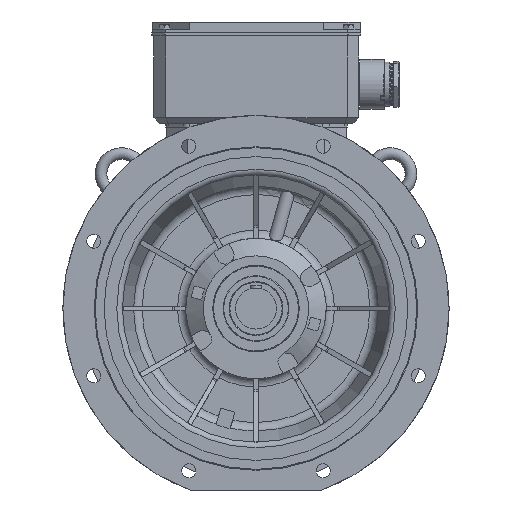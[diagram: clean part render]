
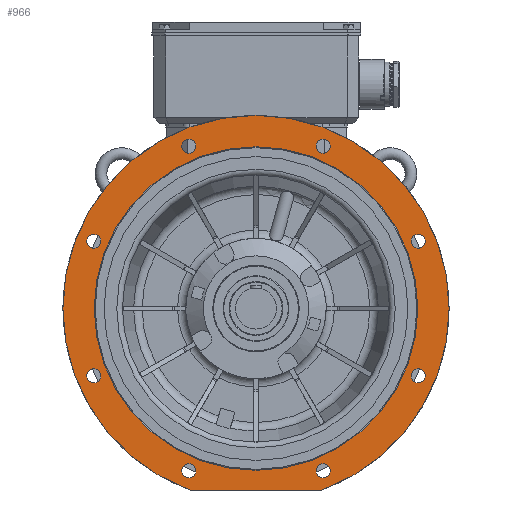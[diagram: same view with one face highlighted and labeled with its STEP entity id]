
A CAD part, front view. The second image highlights one B-rep face of the part: STEP entity #966.
In plain terms, the highlighted planar face has unit normal (0, -1, 0).
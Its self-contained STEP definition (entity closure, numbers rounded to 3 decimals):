
#966 = ADVANCED_FACE( '', ( #3088, #3089, #3090, #3091, #3092, #3093, #3094, #3095, #3096, #3097 ), #3098, .F. );
#3088 = FACE_OUTER_BOUND( '', #7186, .T. );
#3089 = FACE_BOUND( '', #7187, .T. );
#3090 = FACE_BOUND( '', #7188, .T. );
#3091 = FACE_BOUND( '', #7189, .T. );
#3092 = FACE_BOUND( '', #7190, .T. );
#3093 = FACE_BOUND( '', #7191, .T. );
#3094 = FACE_BOUND( '', #7192, .T. );
#3095 = FACE_BOUND( '', #7193, .T. );
#3096 = FACE_BOUND( '', #7194, .T. );
#3097 = FACE_BOUND( '', #7195, .T. );
#3098 = PLANE( '', #7196 );
#7186 = EDGE_LOOP( '', ( #16774, #16775, #16776, #16777 ) );
#7187 = EDGE_LOOP( '', ( #16778 ) );
#7188 = EDGE_LOOP( '', ( #16779 ) );
#7189 = EDGE_LOOP( '', ( #16780 ) );
#7190 = EDGE_LOOP( '', ( #16781 ) );
#7191 = EDGE_LOOP( '', ( #16782 ) );
#7192 = EDGE_LOOP( '', ( #16783 ) );
#7193 = EDGE_LOOP( '', ( #16784 ) );
#7194 = EDGE_LOOP( '', ( #16785 ) );
#7195 = EDGE_LOOP( '', ( #16786 ) );
#7196 = AXIS2_PLACEMENT_3D( '', #16787, #16788, #16789 );
#16774 = ORIENTED_EDGE( '', *, *, #24057, .T. );
#16775 = ORIENTED_EDGE( '', *, *, #22844, .F. );
#16776 = ORIENTED_EDGE( '', *, *, #24058, .T. );
#16777 = ORIENTED_EDGE( '', *, *, #24059, .F. );
#16778 = ORIENTED_EDGE( '', *, *, #24060, .F. );
#16779 = ORIENTED_EDGE( '', *, *, #24061, .F. );
#16780 = ORIENTED_EDGE( '', *, *, #24062, .F. );
#16781 = ORIENTED_EDGE( '', *, *, #24063, .F. );
#16782 = ORIENTED_EDGE( '', *, *, #24064, .F. );
#16783 = ORIENTED_EDGE( '', *, *, #24065, .F. );
#16784 = ORIENTED_EDGE( '', *, *, #24066, .F. );
#16785 = ORIENTED_EDGE( '', *, *, #24067, .F. );
#16786 = ORIENTED_EDGE( '', *, *, #23243, .F. );
#16787 = CARTESIAN_POINT( '', ( 0., -104.997, 276.4 ) );
#16788 = DIRECTION( '', ( 0., 1., 0. ) );
#16789 = DIRECTION( '', ( 1., 0., 0. ) );
#22844 = EDGE_CURVE( '', #27185, #27187, #27188, .T. );
#23243 = EDGE_CURVE( '', #27908, #27908, #27909, .F. );
#24057 = EDGE_CURVE( '', #29259, #27187, #29260, .F. );
#24058 = EDGE_CURVE( '', #27185, #29261, #29262, .F. );
#24059 = EDGE_CURVE( '', #29259, #29261, #29263, .T. );
#24060 = EDGE_CURVE( '', #29264, #29264, #29265, .F. );
#24061 = EDGE_CURVE( '', #29266, #29266, #29267, .F. );
#24062 = EDGE_CURVE( '', #29268, #29268, #29269, .F. );
#24063 = EDGE_CURVE( '', #29270, #29270, #29271, .F. );
#24064 = EDGE_CURVE( '', #29272, #29272, #29273, .F. );
#24065 = EDGE_CURVE( '', #29274, #29274, #29275, .F. );
#24066 = EDGE_CURVE( '', #29276, #29276, #29277, .F. );
#24067 = EDGE_CURVE( '', #29278, #29278, #29279, .F. );
#27185 = VERTEX_POINT( '', #36860 );
#27187 = VERTEX_POINT( '', #36863 );
#27188 = LINE( '', #36864, #36865 );
#27908 = VERTEX_POINT( '', #38967 );
#27909 = CIRCLE( '', #38968, 276.4 );
#29259 = VERTEX_POINT( '', #41678 );
#29260 = CIRCLE( '', #41679, 3. );
#29261 = VERTEX_POINT( '', #41680 );
#29262 = CIRCLE( '', #41681, 3. );
#29263 = CIRCLE( '', #41682, 330. );
#29264 = VERTEX_POINT( '', #41683 );
#29265 = CIRCLE( '', #41684, 12. );
#29266 = VERTEX_POINT( '', #41685 );
#29267 = CIRCLE( '', #41686, 12. );
#29268 = VERTEX_POINT( '', #41687 );
#29269 = CIRCLE( '', #41688, 12. );
#29270 = VERTEX_POINT( '', #41689 );
#29271 = CIRCLE( '', #41690, 12. );
#29272 = VERTEX_POINT( '', #41691 );
#29273 = CIRCLE( '', #41692, 12. );
#29274 = VERTEX_POINT( '', #41693 );
#29275 = CIRCLE( '', #41694, 12. );
#29276 = VERTEX_POINT( '', #41695 );
#29277 = CIRCLE( '', #41696, 12. );
#29278 = VERTEX_POINT( '', #41697 );
#29279 = CIRCLE( '', #41698, 12. );
#36860 = CARTESIAN_POINT( '', ( 112.606, -104.997, -310. ) );
#36863 = CARTESIAN_POINT( '', ( -112.606, -104.997, -310. ) );
#36864 = CARTESIAN_POINT( '', ( -113.137, -104.997, -310. ) );
#36865 = VECTOR( '', #46722, 1000. );
#38967 = CARTESIAN_POINT( '', ( 0., -104.997, 276.4 ) );
#38968 = AXIS2_PLACEMENT_3D( '', #47243, #47244, #47245 );
#41678 = CARTESIAN_POINT( '', ( -113.639, -104.997, -309.817 ) );
#41679 = AXIS2_PLACEMENT_3D( '', #48422, #48423, #48424 );
#41680 = CARTESIAN_POINT( '', ( 113.639, -104.997, -309.817 ) );
#41681 = AXIS2_PLACEMENT_3D( '', #48425, #48426, #48427 );
#41682 = AXIS2_PLACEMENT_3D( '', #48428, #48429, #48430 );
#41683 = CARTESIAN_POINT( '', ( -277.164, -104.997, 126.805 ) );
#41684 = AXIS2_PLACEMENT_3D( '', #48431, #48432, #48433 );
#41685 = CARTESIAN_POINT( '', ( -277.164, -104.997, -102.805 ) );
#41686 = AXIS2_PLACEMENT_3D( '', #48434, #48435, #48436 );
#41687 = CARTESIAN_POINT( '', ( -114.805, -104.997, -265.164 ) );
#41688 = AXIS2_PLACEMENT_3D( '', #48437, #48438, #48439 );
#41689 = CARTESIAN_POINT( '', ( 114.805, -104.997, -265.164 ) );
#41690 = AXIS2_PLACEMENT_3D( '', #48440, #48441, #48442 );
#41691 = CARTESIAN_POINT( '', ( 277.164, -104.997, -102.805 ) );
#41692 = AXIS2_PLACEMENT_3D( '', #48443, #48444, #48445 );
#41693 = CARTESIAN_POINT( '', ( 277.164, -104.997, 126.805 ) );
#41694 = AXIS2_PLACEMENT_3D( '', #48446, #48447, #48448 );
#41695 = CARTESIAN_POINT( '', ( 114.805, -104.997, 289.164 ) );
#41696 = AXIS2_PLACEMENT_3D( '', #48449, #48450, #48451 );
#41697 = CARTESIAN_POINT( '', ( -114.805, -104.997, 289.164 ) );
#41698 = AXIS2_PLACEMENT_3D( '', #48452, #48453, #48454 );
#46722 = DIRECTION( '', ( -1., 0., 0. ) );
#47243 = CARTESIAN_POINT( '', ( 0., -104.997, 0. ) );
#47244 = DIRECTION( '', ( 0., 1., 0. ) );
#47245 = DIRECTION( '', ( 0., 0., 1. ) );
#48422 = CARTESIAN_POINT( '', ( -112.606, -104.997, -307. ) );
#48423 = DIRECTION( '', ( 0., 1., 0. ) );
#48424 = DIRECTION( '', ( 0., 0., 1. ) );
#48425 = CARTESIAN_POINT( '', ( 112.606, -104.997, -307. ) );
#48426 = DIRECTION( '', ( 0., 1., 0. ) );
#48427 = DIRECTION( '', ( 0., 0., 1. ) );
#48428 = CARTESIAN_POINT( '', ( 0., -104.997, 0. ) );
#48429 = DIRECTION( '', ( 0., 1., 0. ) );
#48430 = DIRECTION( '', ( 0., 0., 1. ) );
#48431 = CARTESIAN_POINT( '', ( -277.164, -104.997, 114.805 ) );
#48432 = DIRECTION( '', ( 0., 1., 0. ) );
#48433 = DIRECTION( '', ( 0., 0., 1. ) );
#48434 = CARTESIAN_POINT( '', ( -277.164, -104.997, -114.805 ) );
#48435 = DIRECTION( '', ( 0., 1., 0. ) );
#48436 = DIRECTION( '', ( 0., 0., 1. ) );
#48437 = CARTESIAN_POINT( '', ( -114.805, -104.997, -277.164 ) );
#48438 = DIRECTION( '', ( 0., 1., 0. ) );
#48439 = DIRECTION( '', ( 0., 0., 1. ) );
#48440 = CARTESIAN_POINT( '', ( 114.805, -104.997, -277.164 ) );
#48441 = DIRECTION( '', ( 0., 1., 0. ) );
#48442 = DIRECTION( '', ( 0., 0., 1. ) );
#48443 = CARTESIAN_POINT( '', ( 277.164, -104.997, -114.805 ) );
#48444 = DIRECTION( '', ( 0., 1., 0. ) );
#48445 = DIRECTION( '', ( 0., 0., 1. ) );
#48446 = CARTESIAN_POINT( '', ( 277.164, -104.997, 114.805 ) );
#48447 = DIRECTION( '', ( 0., 1., 0. ) );
#48448 = DIRECTION( '', ( 0., 0., 1. ) );
#48449 = CARTESIAN_POINT( '', ( 114.805, -104.997, 277.164 ) );
#48450 = DIRECTION( '', ( 0., 1., 0. ) );
#48451 = DIRECTION( '', ( 0., 0., 1. ) );
#48452 = CARTESIAN_POINT( '', ( -114.805, -104.997, 277.164 ) );
#48453 = DIRECTION( '', ( 0., 1., 0. ) );
#48454 = DIRECTION( '', ( 0., 0., 1. ) );
